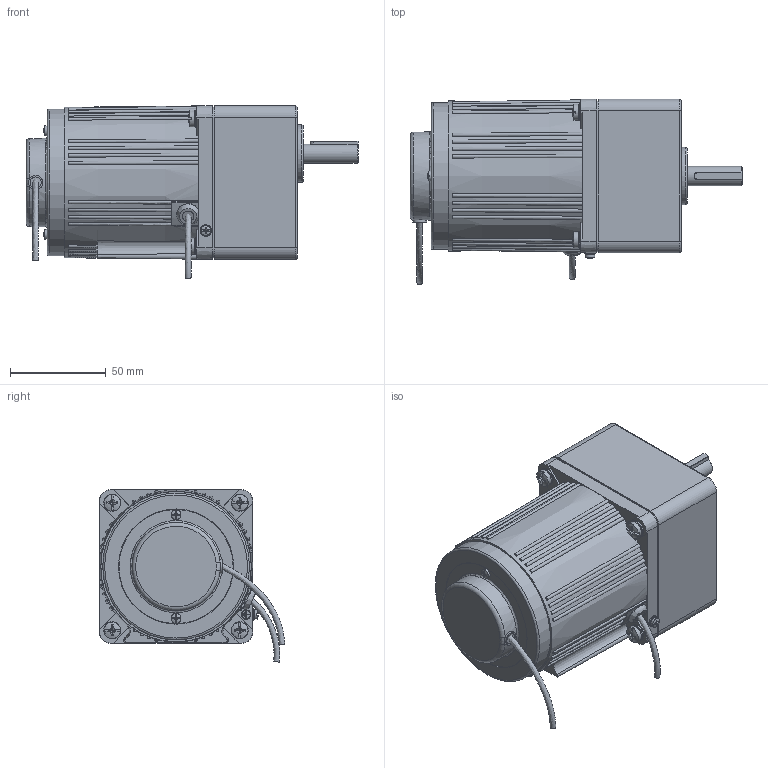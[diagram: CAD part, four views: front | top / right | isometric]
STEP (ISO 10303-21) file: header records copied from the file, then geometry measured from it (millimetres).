
FILE_DESCRIPTION(/* description */ (''),/* implementation_level */ '2;1');
FILE_NAME(/* name */ '4RK25-40CC·R-4GN25-750K-C·10L.stp',/* time_stamp */ '2024-11-02T14:09:19+08:00',/* author */ (''),/* organization */ (''),/* preprocessor_version */ 'ST-DEVELOPER v18.102',/* originating_system */ 'SIEMENS PLM Software NX 2027',/* authorisation */ '');
FILE_SCHEMA (('AP203_CONFIGURATION_CONTROLLED_3D_DESIGN_OF_MECHANICAL_PARTS_AND_ASSEMBLIES_MIM_LF { 1 0 10303 403 2 1 2}'));
Length unit declared in the file: millimetre
Products named in the file (1): 4GN25K-C·10T_stp_YF80306813E7b4wa
Bounding box: 173 x 96.6 x 89.85 mm (x, y, z)
Volume: 728679.7 mm3; surface area: 83829 mm2
Topology: 9 solids, 10 shells, 849 faces, 2218 edges, 1451 vertices
Faces by surface type: plane 286, bspline 278, cylinder 149, cone 68, torus 46, sphere 18, revolution 4
Full cylindrical faces by diameter (mm): 2.6 x1, 2.7 x1, 3.2 x1, 4 x5, 4.2 x8, 4.4 x1, 4.6 x4, 5 x5, 5.1 x3, 5.3 x4, 5.8 x1, 6 x6, 6.5 x4, 7.4 x1, 8.2 x1, 8.5 x4, 9 x4, 10 x1, 10.5 x1, 19 x1, 26 x1, 30 x1, 46 x1, 56 x1, 59.5 x1, 60 x1, 67 x1, 73 x1, 75 x2, 76.5 x1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
Entity records: 32289 total; most frequent: CARTESIAN_POINT 14815, ORIENTED_EDGE 4044, DIRECTION 2500, EDGE_CURVE 2022, VERTEX_POINT 1373, B_SPLINE_CURVE_WITH_KNOTS 1131, EDGE_LOOP 1052, AXIS2_PLACEMENT_3D 1037
